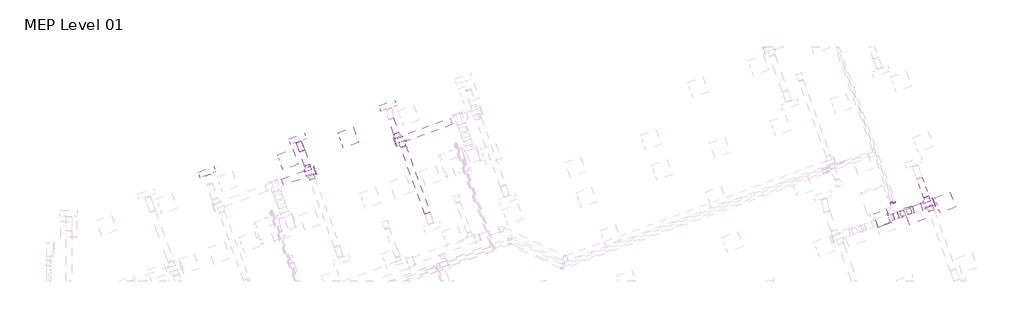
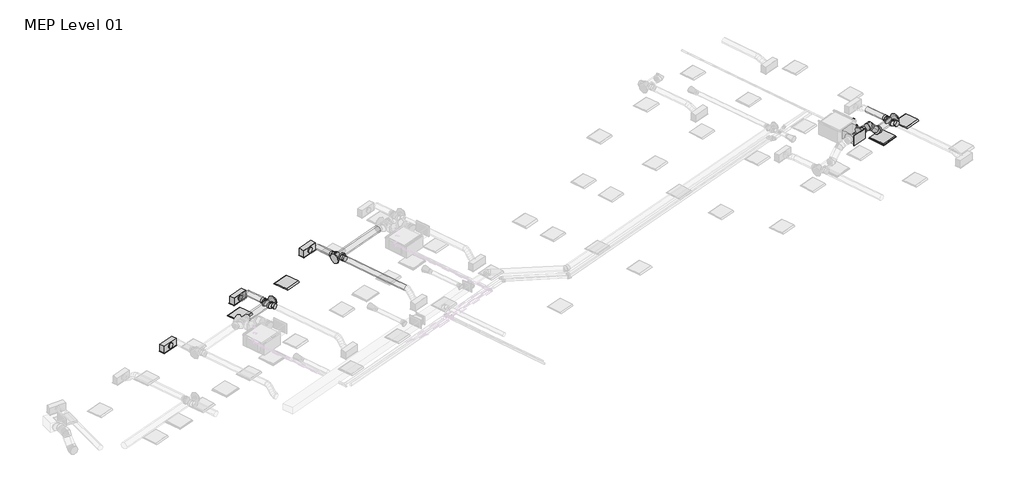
# One storey, part 26 of 29: 13 duct fittings, 11 duct segments, 4 air terminals, 4 pipe fittings, 4 pipe segments, 3 light fixtures.
"""IFC4 building model written with IfcOpenShell, lengths in millimetres."""

from ifc_helpers import new_model, si_unit, point, frame, frame_2d, origin, place, context, project, spatial, polyline, circle_curve, ellipse_curve, trimmed, segment, composite_curve, outline, extrude, transform, mapped, element, save
from ifc_brep_helpers import plane_surface, cylinder_surface, advanced_brep
from components import return_grille_rectangular_hosted_standard_7b12617c, supply_diffuser_with_plenum_linear_slot_hosted_8c379eed, dw144_rectangular_blank_end_standard_1669e3e3, dw144_round_blank_end_standard_e3d0b58b, dw144_round_segmented_bend_slip_joint_standard_636bd9c1, dw144_round_shoe_branch_slip_joint_standard_15a2edd8, dw144_round_shoe_branch_slip_joint_standard_559552f4, dw144_round_shoe_branch_slip_joint_standard_4a92c8a1, light_fixture_600x600_230_1c7c1157, elbow_threaded_gmi_standard_b4aa7741

model = new_model("IFC4")

# Units and contexts
model_context = context("Model", 3, world=origin())
ifc_project = project(units=[si_unit("LENGTHUNIT", "METRE", prefix="MILLI")], contexts=[model_context])

# Site, building, storey
site = spatial("IfcSite", under=ifc_project)
building = spatial("IfcBuilding", under=site)
storey = spatial("IfcBuildingStorey", under=building, Name="MEP Level 01", Elevation=3900.0)

# Air terminals
placement = place(None, origin())
return_grille_rectangular_hosted_standard_shape = return_grille_rectangular_hosted_standard_7b12617c(model_context)
element("IfcAirTerminal", 1, ObjectType="Return Grille - Rectangular - Hosted : Standard", at=placement, inside=storey, context=model_context, shape_type="MappedRepresentation", body=[
    mapped(return_grille_rectangular_hosted_standard_shape, transform((62341.090285, 14748.7465668, 6700.0), x_axis=(0.939692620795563, 0.3420201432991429, 0.0), y_axis=(0.3420201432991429, -0.939692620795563, 0.0), z_axis=(0.0, 0.0, -1.0))),
])
supply_diffuser_with_plenum_linear_slot_hosted_shape = supply_diffuser_with_plenum_linear_slot_hosted_8c379eed(model_context)
element("IfcAirTerminal", 2, ObjectType="Supply Diffuser with Plenum - Linear Slot - Hosted : 600mmx193.8mm-200 In Inlet  4-Slot", at=placement, inside=storey, context=model_context, shape_type="MappedRepresentation", body=[
    mapped(supply_diffuser_with_plenum_linear_slot_hosted_shape, transform((35915.3297037, 16300.7234338, 6500.0), x_axis=(-0.9396926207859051, -0.3420201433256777, 0.0), y_axis=(-0.3420201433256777, 0.9396926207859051, 0.0), z_axis=(0.0, 0.0, -1.0))),
])
element("IfcAirTerminal", 3, ObjectType="Supply Diffuser with Plenum - Linear Slot - Hosted : 600mmx193.8mm-200 In Inlet  4-Slot", at=placement, inside=storey, context=model_context, shape_type="MappedRepresentation", body=[
    mapped(supply_diffuser_with_plenum_linear_slot_hosted_shape, transform((39293.7706156, 17542.574693, 6500.0), x_axis=(-0.9396926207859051, -0.3420201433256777, 0.0), y_axis=(-0.3420201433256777, 0.9396926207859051, 0.0), z_axis=(0.0, 0.0, -1.0))),
])
element("IfcAirTerminal", 4, ObjectType="Supply Diffuser with Plenum - Linear Slot - Hosted : 600mmx193.8mm-200 In Inlet  4-Slot", at=placement, inside=storey, context=model_context, shape_type="MappedRepresentation", body=[
    mapped(supply_diffuser_with_plenum_linear_slot_hosted_shape, transform((42674.4758588, 18775.4888623, 6500.0), x_axis=(-0.9396926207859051, -0.3420201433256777, 0.0), y_axis=(-0.3420201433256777, 0.9396926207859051, 0.0), z_axis=(0.0, 0.0, -1.0))),
])

# Duct fittings
dw144_rectangular_blank_end_standard_shape = dw144_rectangular_blank_end_standard_1669e3e3(model_context)
element("IfcDuctFitting", 5, ObjectType="DW144 Rectangular Blank End : Standard", at=placement, inside=storey, context=model_context, shape_type="MappedRepresentation", body=[
    mapped(dw144_rectangular_blank_end_standard_shape, transform((61207.3958712, 14336.1155454, 7369.575), x_axis=(0.34202014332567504, -0.9396926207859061, 0.0), y_axis=(0.9396926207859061, 0.34202014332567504, 0.0), z_axis=(0.0, 0.0, 1.0))),
])
dw144_round_blank_end_standard_shape = dw144_round_blank_end_standard_e3d0b58b(model_context)
element("IfcDuctFitting", 6, ObjectType="DW144 Round Blank End : Standard", at=placement, inside=storey, context=model_context, shape_type="MappedRepresentation", body=[
    mapped(dw144_round_blank_end_standard_shape, transform((39936.3185675, 16357.4162175, 6972.2088531), x_axis=(0.9396926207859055, 0.3420201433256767, 0.0), y_axis=(-0.3420201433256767, 0.9396926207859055, 0.0), z_axis=(0.0, 0.0, 1.0))),
])
element("IfcDuctFitting", 7, ObjectType="DW144 Round Blank End : Standard", at=placement, inside=storey, context=model_context, shape_type="MappedRepresentation", body=[
    mapped(dw144_round_blank_end_standard_shape, transform((42948.5285031, 17437.6115173, 6972.2088531), x_axis=(-0.9396926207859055, -0.3420201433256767, 0.0), y_axis=(0.3420201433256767, -0.9396926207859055, 0.0), z_axis=(0.0, 0.0, 1.0))),
])
element("IfcDuctFitting", 8, ObjectType="DW144 Round Blank End : Standard", at=placement, inside=storey, context=model_context, shape_type="MappedRepresentation", body=[
    mapped(dw144_round_blank_end_standard_shape, transform((63040.2710121, 15178.5710827, 6972.2088531), x_axis=(0.9396926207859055, 0.3420201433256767, 0.0), y_axis=(-0.3420201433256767, 0.9396926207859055, 0.0), z_axis=(0.0, 0.0, 1.0))),
])
dw144_round_segmented_bend_slip_joint_standard_shape = dw144_round_segmented_bend_slip_joint_standard_636bd9c1(model_context)
element("IfcDuctFitting", 9, ObjectType="DW144 Round Segmented Bend - Slip Joint : Standard", at=placement, inside=storey, context=model_context, shape_type="MappedRepresentation", body=[
    mapped(dw144_round_segmented_bend_slip_joint_standard_shape, transform((62192.3208978, 14869.9424809, 6972.2088531), x_axis=(0.6644630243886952, 0.24184476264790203, -0.7071067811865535), y_axis=(0.6644630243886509, 0.2418447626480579, 0.7071067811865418), z_axis=(0.3420201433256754, -0.939692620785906, 0.0))),
])
element("IfcDuctFitting", 10, ObjectType="DW144 Round Segmented Bend - Slip Joint : Standard", at=placement, inside=storey, context=model_context, shape_type="MappedRepresentation", body=[
    mapped(dw144_round_segmented_bend_slip_joint_standard_shape, transform((61818.9188618, 14734.0352544, 7369.575), x_axis=(0.9396926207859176, 0.3420201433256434, 0.0), y_axis=(0.0, 0.0, -1.0), z_axis=(-0.3420201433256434, 0.9396926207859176, 0.0))),
])
dw144_round_shoe_branch_slip_joint_standard_shape = dw144_round_shoe_branch_slip_joint_standard_15a2edd8(model_context)
element("IfcDuctFitting", 11, ObjectType="DW144 Round Shoe Branch - Slip Joint : Standard", at=placement, inside=storey, context=model_context, shape_type="MappedRepresentation", body=[
    mapped(dw144_round_shoe_branch_slip_joint_standard_shape, transform((39717.3209662, 16410.7298308, 6972.2088531), x_axis=(-0.3420201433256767, 0.9396926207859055, 0.0), y_axis=(0.9396926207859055, 0.3420201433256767, 0.0), z_axis=(0.0, 0.0, -1.0))),
])
element("IfcDuctFitting", 12, ObjectType="DW144 Round Shoe Branch - Slip Joint : Standard", at=placement, inside=storey, context=model_context, shape_type="MappedRepresentation", body=[
    mapped(dw144_round_shoe_branch_slip_joint_standard_shape, transform((39802.826002, 16175.8066756, 6972.2088531), x_axis=(0.3420201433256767, -0.9396926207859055, 0.0), y_axis=(0.9396926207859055, 0.3420201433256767, 0.0), z_axis=(0.0, 0.0, 1.0))),
])
element("IfcDuctFitting", 13, ObjectType="DW144 Round Shoe Branch - Slip Joint : Standard", at=placement, inside=storey, context=model_context, shape_type="MappedRepresentation", body=[
    mapped(dw144_round_shoe_branch_slip_joint_standard_shape, transform((62821.2734108, 15231.884696, 6972.2088531), x_axis=(-0.3420201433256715, 0.9396926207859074, 0.0), y_axis=(0.9396926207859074, 0.3420201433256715, 0.0), z_axis=(0.0, 0.0, -1.0))),
])
element("IfcDuctFitting", 14, ObjectType="DW144 Round Shoe Branch - Slip Joint : Standard", at=placement, inside=storey, context=model_context, shape_type="MappedRepresentation", body=[
    mapped(dw144_round_shoe_branch_slip_joint_standard_shape, transform((62906.7784467, 14996.9615408, 6972.2088531), x_axis=(0.3420201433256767, -0.9396926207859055, 0.0), y_axis=(0.9396926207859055, 0.3420201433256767, 0.0), z_axis=(0.0, 0.0, 1.0))),
])
dw144_round_shoe_branch_slip_joint_standard_2_shape = dw144_round_shoe_branch_slip_joint_standard_559552f4(model_context)
element("IfcDuctFitting", 15, ObjectType="DW144 Round Shoe Branch - Slip Joint : Standard", at=placement, inside=storey, context=model_context, shape_type="MappedRepresentation", body=[
    mapped(dw144_round_shoe_branch_slip_joint_standard_2_shape, transform((43036.855796, 17602.7822443, 6972.2088531), x_axis=(-0.3420201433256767, 0.9396926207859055, 0.0), y_axis=(0.9396926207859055, 0.3420201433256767, 0.0), z_axis=(0.0, 0.0, -1.0))),
])
element("IfcDuctFitting", 16, ObjectType="DW144 Round Shoe Branch - Slip Joint : Standard", at=placement, inside=storey, context=model_context, shape_type="MappedRepresentation", body=[
    mapped(dw144_round_shoe_branch_slip_joint_standard_2_shape, transform((43190.912986, 17392.8100327, 6972.2088531), x_axis=(0.3420201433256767, -0.9396926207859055, 0.0), y_axis=(0.9396926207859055, 0.3420201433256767, 0.0), z_axis=(0.0, 0.0, 1.0))),
])
dw144_round_shoe_branch_slip_joint_standard_3_shape = dw144_round_shoe_branch_slip_joint_standard_4a92c8a1(model_context)
element("IfcDuctFitting", 17, ObjectType="DW144 Round Shoe Branch - Slip Joint : Standard", at=placement, inside=storey, context=model_context, shape_type="MappedRepresentation", body=[
    mapped(dw144_round_shoe_branch_slip_joint_standard_3_shape, transform((61385.964698, 14576.452826, 7369.575), x_axis=(0.9396926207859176, 0.3420201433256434, 0.0), y_axis=(0.3420201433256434, -0.9396926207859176, 0.0), z_axis=(0.0, 0.0, -1.0))),
])

# Duct segments
element("IfcDuctSegment", 18, ObjectType="DW144 Flanged Med Radius Bend / Shoe Branch", at=placement, inside=storey, context=model_context, shape_type="SweptSolid", body=[
    extrude(outline(polyline([(60794.7590495, 14738.8747953), (61264.6053599, 14909.884867), (61442.3190264, 14421.6205812), (60972.472716, 14250.6105095), (60794.7590495, 14738.8747953)])), frame((0.0, 0.0, 7194.575), z_axis=(0.0, 0.0, 1.0), x_axis=(1.0, 0.0, 0.0)), (0.0, 0.0, 1.0), 350.0),
])
element("IfcDuctSegment", 19, ObjectType="DW144 Segmented Bend / Shoe Branch", at=placement, inside=storey, context=model_context, shape_type="SweptSolid", body=[
    extrude(outline(composite_curve([segment(trimmed(circle_curve(frame_2d((0.0, 125.0)), 125.0), [point((125.0, 125.0))], [point((0.0, 0.0))], False, "CARTESIAN"), True, "CONTINUOUS"), segment(trimmed(circle_curve(frame_2d((0.0, 125.0)), 125.0), [point((0.0, 0.0))], [point((-125.0, 125.0))], False, "CARTESIAN"), True, "CONTINUOUS"), segment(trimmed(circle_curve(frame_2d((0.0, 125.0)), 125.0), [point((-125.0, 125.0))], [point((0.0, 250.0))], False, "CARTESIAN"), True, "CONTINUOUS"), segment(trimmed(circle_curve(frame_2d((0.0, 125.0)), 125.0), [point((0.0, 250.0))], [point((125.0, 125.0))], False, "CARTESIAN"), True, "CONTINUOUS")], self_intersect=False)), frame((38741.1276812, 15922.4023106, 7097.2088531), z_axis=(0.9396926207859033, 0.3420201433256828, 0.0), x_axis=(0.3420201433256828, -0.9396926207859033, 0.0)), (0.0, 0.0, 1.0), 1271.8955751),
])
element("IfcDuctSegment", 20, ObjectType="DW144 Segmented Bend / Shoe Branch", at=placement, inside=storey, context=model_context, shape_type="SweptSolid", body=[
    extrude(outline(composite_curve([segment(trimmed(circle_curve(frame_2d((0.0, 100.0)), 100.0), [point((100.0, 100.0))], [point((0.0, 0.0))], False, "CARTESIAN"), True, "CONTINUOUS"), segment(trimmed(circle_curve(frame_2d((0.0, 100.0)), 100.0), [point((0.0, 0.0))], [point((-100.0, 100.0))], False, "CARTESIAN"), True, "CONTINUOUS"), segment(trimmed(circle_curve(frame_2d((0.0, 100.0)), 100.0), [point((-100.0, 100.0))], [point((0.0, 200.0))], False, "CARTESIAN"), True, "CONTINUOUS"), segment(trimmed(circle_curve(frame_2d((0.0, 100.0)), 100.0), [point((0.0, 200.0))], [point((100.0, 100.0))], False, "CARTESIAN"), True, "CONTINUOUS")], self_intersect=False)), frame((39666.0179447, 16551.683724, 7072.2088531), z_axis=(-0.3420201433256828, 0.9396926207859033, 0.0), x_axis=(0.9396926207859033, 0.3420201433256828, 0.0)), (0.0, 0.0, 1.0), 574.8150783),
])
element("IfcDuctSegment", 21, ObjectType="DW144 Segmented Bend / Shoe Branch", at=placement, inside=storey, context=model_context, shape_type="SweptSolid", body=[
    extrude(outline(composite_curve([segment(trimmed(circle_curve(frame_2d((0.0, -125.0)), 125.0), [point((-125.0, -125.0))], [point((0.0, 0.0))], False, "CARTESIAN"), True, "CONTINUOUS"), segment(trimmed(circle_curve(frame_2d((0.0, -125.0)), 125.0), [point((0.0, 0.0))], [point((125.0, -125.0))], False, "CARTESIAN"), True, "CONTINUOUS"), segment(trimmed(circle_curve(frame_2d((0.0, -125.0)), 125.0), [point((125.0, -125.0))], [point((0.0, -250.0))], False, "CARTESIAN"), True, "CONTINUOUS"), segment(trimmed(circle_curve(frame_2d((0.0, -125.0)), 125.0), [point((0.0, -250.0))], [point((-125.0, -125.0))], False, "CARTESIAN"), True, "CONTINUOUS")], self_intersect=False)), frame((42948.5285031, 17437.6115173, 6847.2088531), z_axis=(0.9396926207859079, 0.3420201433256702, 0.0), x_axis=(0.3420201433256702, -0.9396926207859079, 0.0)), (0.0, 0.0, 1.0), 2211.3668834),
])
element("IfcDuctSegment", 22, ObjectType="DW144 Segmented Bend / Shoe Branch", at=placement, inside=storey, context=model_context, shape_type="SweptSolid", body=[
    extrude(outline(composite_curve([segment(trimmed(circle_curve(frame_2d((0.0, -100.0)), 100.0), [point((-100.0, -100.0))], [point((0.0, 0.0))], False, "CARTESIAN"), True, "CONTINUOUS"), segment(trimmed(circle_curve(frame_2d((0.0, -100.0)), 100.0), [point((0.0, 0.0))], [point((100.0, -100.0))], False, "CARTESIAN"), True, "CONTINUOUS"), segment(trimmed(circle_curve(frame_2d((0.0, -100.0)), 100.0), [point((100.0, -100.0))], [point((0.0, -200.0))], False, "CARTESIAN"), True, "CONTINUOUS"), segment(trimmed(circle_curve(frame_2d((0.0, -100.0)), 100.0), [point((0.0, -200.0))], [point((-100.0, -100.0))], False, "CARTESIAN"), True, "CONTINUOUS")], self_intersect=False)), frame((42985.5527745, 17743.7361374, 6872.2088531), z_axis=(-0.34202014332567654, 0.9396926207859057, 0.0), x_axis=(0.9396926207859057, 0.34202014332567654, 0.0)), (0.0, 0.0, 1.0), 590.0),
])
element("IfcDuctSegment", 23, ObjectType="DW144 Segmented Bend / Shoe Branch", at=placement, inside=storey, context=model_context, shape_type="SweptSolid", body=[
    extrude(outline(composite_curve([segment(trimmed(circle_curve(frame_2d((0.0, 100.0)), 100.0), [point((100.0, 100.0))], [point((0.0, 0.0))], False, "CARTESIAN"), True, "CONTINUOUS"), segment(trimmed(circle_curve(frame_2d((0.0, 100.0)), 100.0), [point((0.0, 0.0))], [point((-100.0, 100.0))], False, "CARTESIAN"), True, "CONTINUOUS"), segment(trimmed(circle_curve(frame_2d((0.0, 100.0)), 100.0), [point((-100.0, 100.0))], [point((0.0, 200.0))], False, "CARTESIAN"), True, "CONTINUOUS"), segment(trimmed(circle_curve(frame_2d((0.0, 100.0)), 100.0), [point((0.0, 200.0))], [point((100.0, 100.0))], False, "CARTESIAN"), True, "CONTINUOUS")], self_intersect=False)), frame((44148.5693873, 14761.6706945, 7072.2088531), z_axis=(-0.34202014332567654, 0.9396926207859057, 0.0), x_axis=(0.9396926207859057, 0.34202014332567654, 0.0)), (0.0, 0.0, 1.0), 2650.0),
])
element("IfcDuctSegment", 24, ObjectType="DW144 Segmented Bend / Shoe Branch", at=placement, inside=storey, context=model_context, shape_type="SweptSolid", body=[
    extrude(outline(composite_curve([segment(trimmed(circle_curve(frame_2d((0.0, -125.0)), 125.0), [point((-125.0, -125.0))], [point((0.0, 0.0))], False, "CARTESIAN"), True, "CONTINUOUS"), segment(trimmed(circle_curve(frame_2d((0.0, -125.0)), 125.0), [point((0.0, 0.0))], [point((125.0, -125.0))], False, "CARTESIAN"), True, "CONTINUOUS"), segment(trimmed(circle_curve(frame_2d((0.0, -125.0)), 125.0), [point((125.0, -125.0))], [point((0.0, -250.0))], False, "CARTESIAN"), True, "CONTINUOUS"), segment(trimmed(circle_curve(frame_2d((0.0, -125.0)), 125.0), [point((0.0, -250.0))], [point((-125.0, -125.0))], False, "CARTESIAN"), True, "CONTINUOUS")], self_intersect=False)), frame((62289.6292548, 14905.3598264, 6847.2088531), z_axis=(0.9396926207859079, 0.3420201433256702, 0.0), x_axis=(0.3420201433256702, -0.9396926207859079, 0.0)), (0.0, 0.0, 1.0), 798.8162732),
])
element("IfcDuctSegment", 25, ObjectType="DW144 Segmented Bend / Shoe Branch", at=placement, inside=storey, context=model_context, shape_type="SweptSolid", body=[
    extrude(outline(composite_curve([segment(trimmed(circle_curve(frame_2d((0.0, 100.0)), 100.0), [point((100.0, 100.0))], [point((0.0, 0.0))], False, "CARTESIAN"), True, "CONTINUOUS"), segment(trimmed(circle_curve(frame_2d((0.0, 100.0)), 100.0), [point((0.0, 0.0))], [point((-100.0, 100.0))], False, "CARTESIAN"), True, "CONTINUOUS"), segment(trimmed(circle_curve(frame_2d((0.0, 100.0)), 100.0), [point((-100.0, 100.0))], [point((0.0, 200.0))], False, "CARTESIAN"), True, "CONTINUOUS"), segment(trimmed(circle_curve(frame_2d((0.0, 100.0)), 100.0), [point((0.0, 200.0))], [point((100.0, 100.0))], False, "CARTESIAN"), True, "CONTINUOUS")], self_intersect=False)), frame((62769.9703893, 15372.8385891, 7072.2088531), z_axis=(-0.3420201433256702, 0.9396926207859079, 0.0), x_axis=(0.9396926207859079, 0.3420201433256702, 0.0)), (0.0, 0.0, 1.0), 750.0),
])
element("IfcDuctSegment", 26, ObjectType="DW144 Segmented Bend / Shoe Branch", at=placement, inside=storey, context=model_context, shape_type="SweptSolid", body=[
    extrude(outline(composite_curve([segment(trimmed(circle_curve(frame_2d((0.0, 125.0)), 125.0), [point((125.0, 125.0))], [point((0.0, 0.0))], False, "CARTESIAN"), True, "CONTINUOUS"), segment(trimmed(circle_curve(frame_2d((0.0, 125.0)), 125.0), [point((0.0, 0.0))], [point((-125.0, 125.0))], False, "CARTESIAN"), True, "CONTINUOUS"), segment(trimmed(circle_curve(frame_2d((0.0, 125.0)), 125.0), [point((-125.0, 125.0))], [point((0.0, 250.0))], False, "CARTESIAN"), True, "CONTINUOUS"), segment(trimmed(circle_curve(frame_2d((0.0, 125.0)), 125.0), [point((0.0, 250.0))], [point((125.0, 125.0))], False, "CARTESIAN"), True, "CONTINUOUS")], self_intersect=False)), frame((61550.4109066, 14636.3063511, 7494.575), z_axis=(0.9396926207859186, 0.3420201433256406, 0.0), x_axis=(0.3420201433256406, -0.9396926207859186, 0.0)), (0.0, 0.0, 1.0), 182.1868071),
])
element("IfcDuctSegment", 27, ObjectType="DW144 Segmented Bend / Shoe Branch", at=placement, inside=storey, context=model_context, shape_type="SweptSolid", body=[
    extrude(outline(composite_curve([segment(trimmed(circle_curve(frame_2d((0.0, -125.0)), 125.0), [point((57.2076922, -236.1408113))], [point((-111.1408113, -182.2076923))], False, "CARTESIAN"), True, "CONTINUOUS"), segment(trimmed(circle_curve(frame_2d((0.0, -125.0)), 125.0), [point((-111.1408113, -182.2076923))], [point((-57.2076923, -13.8591886))], False, "CARTESIAN"), True, "CONTINUOUS"), segment(trimmed(circle_curve(frame_2d((0.0, -125.0)), 125.0), [point((-57.2076923, -13.8591886))], [point((111.1408113, -67.7923077))], False, "CARTESIAN"), True, "CONTINUOUS"), segment(trimmed(circle_curve(frame_2d((0.0, -125.0)), 125.0), [point((111.1408113, -67.7923077))], [point((57.2076922, -236.1408113))], False, "CARTESIAN"), True, "CONTINUOUS")], self_intersect=False)), frame((62123.5134987, 14963.1722168, 7085.884105), z_axis=(-0.6644630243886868, -0.2418447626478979, 0.7071067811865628), x_axis=(0.7473211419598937, -0.21503058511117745, 0.6287073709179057)), (0.0, 0.0, 1.0), 354.8538129),
])
element("IfcDuctSegment", 28, ObjectType="Flex - Round", at=placement, inside=storey, context=model_context, shape_type="AdvancedBrep", body=[
    advanced_brep(
    [(39375.4503472, 17057.631197, 6972.2088531), (39469.4196093, 17091.8332113, 6872.2088531), (39563.3888713, 17126.0352256, 6972.2088531), (39469.4196093, 17091.8332113, 7072.2088531), (39366.3000724, 17082.7713704, 6972.2088531), (39468.3712519, 17094.7135495, 6872.2088531), (39553.6634713, 17152.7555425, 6972.2088531), (39451.5922918, 17140.8133634, 7072.2088531), (39243.88775, 17387.2462998, 6654.4), (39337.8570121, 17421.4483142, 6754.4), (39431.8262742, 17455.6503285, 6654.4), (39337.8570121, 17421.4483142, 6554.4), (39354.6030432, 17113.2033068, 6955.1920761), (39468.0578227, 17095.5289923, 6871.7528779), (39541.1583625, 17185.2898444, 6954.016486), (39427.703583, 17202.9641589, 7037.4556843), (39336.031748, 17159.7315718, 6910.3303741), (39455.7796156, 17126.2906417, 6842.0930583), (39522.1403442, 17232.9373231, 6908.0756586), (39402.3924766, 17266.3782532, 6976.3129745), (39318.9928732, 17200.3636656, 6848.646534), (39441.8182951, 17159.583784, 6791.5505271), (39504.8830052, 17274.090382, 6845.6009381), (39382.0575833, 17314.8702636, 6902.6969449), (39302.3936162, 17239.1911435, 6781.0079151), (39425.2190381, 17198.4112619, 6723.9119082), (39488.2837482, 17312.9178598, 6777.9623192), (39365.4583263, 17353.6977415, 6835.0583261), (39285.1362771, 17280.3442024, 6718.5331946), (39404.8841447, 17246.9032723, 6650.2958787), (39471.2448734, 17353.5499537, 6716.278479), (39351.4970058, 17386.9908838, 6784.5157949), (39266.1182589, 17327.9916811, 6672.5923671), (39379.5730383, 17310.3173666, 6589.1531689), (39452.6735782, 17400.0782186, 6671.416777), (39339.2187987, 17417.7525332, 6754.8559752), (39253.61315, 17360.525983, 6654.4), (39355.6843296, 17372.4681621, 6554.4), (39440.976549, 17430.5101551, 6654.4), (39338.9053695, 17418.567976, 6754.4)],
    [
        (0, 1, circle_curve(frame((39469.4196093, 17091.8332113, 6972.2088531), z_axis=(0.3420201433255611, -0.9396926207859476, 0.0), x_axis=(-0.9396926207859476, -0.3420201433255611, 0.0)), 100.0)),
        (1, 2, circle_curve(frame((39469.4196093, 17091.8332113, 6972.2088531), z_axis=(0.3420201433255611, -0.9396926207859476, 0.0), x_axis=(-0.9396926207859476, -0.3420201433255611, 0.0)), 100.0)),
        (2, 3, circle_curve(frame((39469.4196093, 17091.8332113, 6972.2088531), z_axis=(0.3420201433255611, -0.9396926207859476, 0.0), x_axis=(-0.9396926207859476, -0.3420201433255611, 0.0)), 100.0)),
        (3, 0, circle_curve(frame((39469.4196093, 17091.8332113, 6972.2088531), z_axis=(0.3420201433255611, -0.9396926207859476, 0.0), x_axis=(-0.9396926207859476, -0.3420201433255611, 0.0)), 100.0)),
        (0, 4),
        (4, 5, ellipse_curve(frame((39459.9817718, 17117.7634565, 6972.2088531), z_axis=(0.33983489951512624, -0.9098146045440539, 0.2382218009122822), x_axis=(0.050261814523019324, -0.23536541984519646, -0.9706064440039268)), 102.9679003, 100.0)),
        (5, 1),
        (5, 6, ellipse_curve(frame((39459.9817718, 17117.7634565, 6972.2088531), z_axis=(0.33983489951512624, -0.9098146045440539, 0.2382218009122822), x_axis=(0.050261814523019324, -0.23536541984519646, -0.9706064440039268)), 102.9679003, 100.0)),
        (6, 2),
        (6, 7, ellipse_curve(frame((39459.9817718, 17117.7634565, 6972.2088531), z_axis=(0.33983489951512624, -0.9098146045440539, 0.2382218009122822), x_axis=(0.050261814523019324, -0.23536541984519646, -0.9706064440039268)), 102.9679003, 100.0)),
        (7, 3),
        (7, 4, ellipse_curve(frame((39459.9817718, 17117.7634565, 6972.2088531), z_axis=(0.33983489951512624, -0.9098146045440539, 0.2382218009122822), x_axis=(0.050261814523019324, -0.23536541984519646, -0.9706064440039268)), 102.9679003, 100.0)),
        (8, 9, circle_curve(frame((39337.8570121, 17421.4483142, 6654.4), z_axis=(-0.34202014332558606, 0.9396926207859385, 0.0), x_axis=(-0.9396926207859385, -0.34202014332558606, 0.0)), 100.0)),
        (9, 10, circle_curve(frame((39337.8570121, 17421.4483142, 6654.4), z_axis=(-0.34202014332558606, 0.9396926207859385, 0.0), x_axis=(-0.9396926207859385, -0.34202014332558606, 0.0)), 100.0)),
        (10, 11, circle_curve(frame((39337.8570121, 17421.4483142, 6654.4), z_axis=(-0.34202014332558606, 0.9396926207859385, 0.0), x_axis=(-0.9396926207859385, -0.34202014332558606, 0.0)), 100.0)),
        (11, 8, circle_curve(frame((39337.8570121, 17421.4483142, 6654.4), z_axis=(-0.34202014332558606, 0.9396926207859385, 0.0), x_axis=(-0.9396926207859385, -0.34202014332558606, 0.0)), 100.0)),
        (4, 12),
        (12, 13, ellipse_curve(frame((39447.8807028, 17149.2465756, 6954.6042811), z_axis=(0.2994361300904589, -0.7656367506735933, 0.5693315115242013), x_axis=(0.16838055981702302, -0.544940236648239, -0.8213940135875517)), 100.7831059, 100.0)),
        (13, 5),
        (13, 14, ellipse_curve(frame((39447.8807028, 17149.2465756, 6954.6042811), z_axis=(0.2994361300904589, -0.7656367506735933, 0.5693315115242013), x_axis=(0.16838055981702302, -0.544940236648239, -0.8213940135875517)), 100.7831059, 100.0)),
        (14, 6),
        (14, 15, ellipse_curve(frame((39447.8807028, 17149.2465756, 6954.6042811), z_axis=(0.2994361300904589, -0.7656367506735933, 0.5693315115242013), x_axis=(0.16838055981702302, -0.544940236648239, -0.8213940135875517)), 100.7831059, 100.0)),
        (15, 7),
        (15, 12, ellipse_curve(frame((39447.8807028, 17149.2465756, 6954.6042811), z_axis=(0.2994361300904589, -0.7656367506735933, 0.5693315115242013), x_axis=(0.16838055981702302, -0.544940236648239, -0.8213940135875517)), 100.7831059, 100.0)),
        (12, 16),
        (16, 17, ellipse_curve(frame((39429.0860461, 17196.3344474, 6909.2030164), z_axis=(0.25199849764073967, -0.6177035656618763, 0.7449423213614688), x_axis=(0.2334754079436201, -0.7082385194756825, -0.6662487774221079)), 100.6109919, 100.0)),
        (17, 13),
        (17, 18, ellipse_curve(frame((39429.0860461, 17196.3344474, 6909.2030164), z_axis=(0.25199849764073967, -0.6177035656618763, 0.7449423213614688), x_axis=(0.2334754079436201, -0.7082385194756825, -0.6662487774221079)), 100.6109919, 100.0)),
        (18, 14),
        (18, 19, ellipse_curve(frame((39429.0860461, 17196.3344474, 6909.2030164), z_axis=(0.25199849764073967, -0.6177035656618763, 0.7449423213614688), x_axis=(0.2334754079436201, -0.7082385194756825, -0.6662487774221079)), 100.6109919, 100.0)),
        (19, 15),
        (19, 16, ellipse_curve(frame((39429.0860461, 17196.3344474, 6909.2030164), z_axis=(0.25199849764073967, -0.6177035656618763, 0.7449423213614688), x_axis=(0.2334754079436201, -0.7082385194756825, -0.6662487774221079)), 100.6109919, 100.0)),
        (16, 20),
        (20, 21, ellipse_curve(frame((39411.9379392, 17237.2270238, 6847.123736), z_axis=(0.21657997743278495, -0.5117272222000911, 0.8314014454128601), x_axis=(0.2666591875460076, -0.7882225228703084, -0.5546153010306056)), 100.0484947, 100.0)),
        (21, 17),
        (21, 22, ellipse_curve(frame((39411.9379392, 17237.2270238, 6847.123736), z_axis=(0.21657997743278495, -0.5117272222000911, 0.8314014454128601), x_axis=(0.2666591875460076, -0.7882225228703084, -0.5546153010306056)), 100.0484947, 100.0)),
        (22, 18),
        (22, 23, ellipse_curve(frame((39411.9379392, 17237.2270238, 6847.123736), z_axis=(0.21657997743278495, -0.5117272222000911, 0.8314014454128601), x_axis=(0.2666591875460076, -0.7882225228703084, -0.5546153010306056)), 100.0484947, 100.0)),
        (23, 19),
        (23, 20, ellipse_curve(frame((39411.9379392, 17237.2270238, 6847.123736), z_axis=(0.21657997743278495, -0.5117272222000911, 0.8314014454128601), x_axis=(0.2666591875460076, -0.7882225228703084, -0.5546153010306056)), 100.0484947, 100.0)),
        (20, 24),
        (24, 25, ellipse_curve(frame((39395.3386822, 17276.0545017, 6779.4851171), z_axis=(0.2165799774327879, -0.5117272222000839, 0.8314014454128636), x_axis=(-0.26665918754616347, 0.7882225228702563, 0.5546153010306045)), 100.0484947, 100.0)),
        (25, 21),
        (25, 26, ellipse_curve(frame((39395.3386822, 17276.0545017, 6779.4851171), z_axis=(0.2165799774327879, -0.5117272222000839, 0.8314014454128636), x_axis=(-0.26665918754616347, 0.7882225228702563, 0.5546153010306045)), 100.0484947, 100.0)),
        (26, 22),
        (26, 27, ellipse_curve(frame((39395.3386822, 17276.0545017, 6779.4851171), z_axis=(0.2165799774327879, -0.5117272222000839, 0.8314014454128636), x_axis=(-0.26665918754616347, 0.7882225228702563, 0.5546153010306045)), 100.0484947, 100.0)),
        (27, 23),
        (27, 24, ellipse_curve(frame((39395.3386822, 17276.0545017, 6779.4851171), z_axis=(0.2165799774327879, -0.5117272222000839, 0.8314014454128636), x_axis=(-0.26665918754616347, 0.7882225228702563, 0.5546153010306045)), 100.0484947, 100.0)),
        (24, 28),
        (28, 29, ellipse_curve(frame((39378.1905753, 17316.947078, 6717.4058368), z_axis=(0.25199849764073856, -0.617703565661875, 0.7449423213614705), x_axis=(-0.23347540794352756, 0.7082385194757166, 0.6662487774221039)), 100.6109919, 100.0)),
        (29, 25),
        (29, 30, ellipse_curve(frame((39378.1905753, 17316.947078, 6717.4058368), z_axis=(0.25199849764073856, -0.617703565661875, 0.7449423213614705), x_axis=(-0.23347540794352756, 0.7082385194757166, 0.6662487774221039)), 100.6109919, 100.0)),
        (30, 26),
        (30, 31, ellipse_curve(frame((39378.1905753, 17316.947078, 6717.4058368), z_axis=(0.25199849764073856, -0.617703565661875, 0.7449423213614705), x_axis=(-0.23347540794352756, 0.7082385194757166, 0.6662487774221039)), 100.6109919, 100.0)),
        (31, 27),
        (31, 28, ellipse_curve(frame((39378.1905753, 17316.947078, 6717.4058368), z_axis=(0.25199849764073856, -0.617703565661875, 0.7449423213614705), x_axis=(-0.23347540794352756, 0.7082385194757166, 0.6662487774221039)), 100.6109919, 100.0)),
        (28, 32),
        (32, 33, ellipse_curve(frame((39359.3959185, 17364.0349499, 6672.004572), z_axis=(0.2994361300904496, -0.7656367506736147, 0.5693315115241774), x_axis=(-0.16838055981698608, 0.5449402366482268, 0.8213940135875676)), 100.7831059, 100.0)),
        (33, 29),
        (33, 34, ellipse_curve(frame((39359.3959185, 17364.0349499, 6672.004572), z_axis=(0.2994361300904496, -0.7656367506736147, 0.5693315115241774), x_axis=(-0.16838055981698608, 0.5449402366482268, 0.8213940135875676)), 100.7831059, 100.0)),
        (34, 30),
        (34, 35, ellipse_curve(frame((39359.3959185, 17364.0349499, 6672.004572), z_axis=(0.2994361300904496, -0.7656367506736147, 0.5693315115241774), x_axis=(-0.16838055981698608, 0.5449402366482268, 0.8213940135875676)), 100.7831059, 100.0)),
        (35, 31),
        (35, 32, ellipse_curve(frame((39359.3959185, 17364.0349499, 6672.004572), z_axis=(0.2994361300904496, -0.7656367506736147, 0.5693315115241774), x_axis=(-0.16838055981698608, 0.5449402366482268, 0.8213940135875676)), 100.7831059, 100.0)),
        (32, 36),
        (36, 37, ellipse_curve(frame((39347.2948495, 17395.518069, 6654.4), z_axis=(0.3398348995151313, -0.9098146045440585, 0.23822180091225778), x_axis=(-0.050261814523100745, 0.23536541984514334, 0.9706064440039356)), 102.9679003, 100.0)),
        (37, 33),
        (37, 38, ellipse_curve(frame((39347.2948495, 17395.518069, 6654.4), z_axis=(0.3398348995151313, -0.9098146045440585, 0.23822180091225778), x_axis=(-0.050261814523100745, 0.23536541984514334, 0.9706064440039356)), 102.9679003, 100.0)),
        (38, 34),
        (38, 39, ellipse_curve(frame((39347.2948495, 17395.518069, 6654.4), z_axis=(0.3398348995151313, -0.9098146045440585, 0.23822180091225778), x_axis=(-0.050261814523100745, 0.23536541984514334, 0.9706064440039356)), 102.9679003, 100.0)),
        (39, 35),
        (39, 36, ellipse_curve(frame((39347.2948495, 17395.518069, 6654.4), z_axis=(0.3398348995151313, -0.9098146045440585, 0.23822180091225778), x_axis=(-0.050261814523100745, 0.23536541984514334, 0.9706064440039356)), 102.9679003, 100.0)),
        (36, 8),
        (11, 37),
        (10, 38),
        (9, 39),
    ],
    [
        plane_surface(frame((39469.4196093, 17091.8332113, 7072.2088531), z_axis=(0.342020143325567, -0.9396926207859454, 0.0), x_axis=(0.9396926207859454, 0.342020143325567, 0.0))),
        cylinder_surface(frame((39469.4196093, 17091.8332113, 6972.2088531), z_axis=(0.3420201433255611, -0.9396926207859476, 0.0), x_axis=(-0.9396926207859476, -0.3420201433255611, 0.0)), 100.0),
        plane_surface(frame((39337.8570121, 17421.4483142, 6754.4), z_axis=(-0.34202014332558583, 0.9396926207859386, 0.0), x_axis=(0.9396926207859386, 0.34202014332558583, 0.0))),
        cylinder_surface(frame((39459.9817718, 17117.7634565, 6972.2088531), z_axis=(0.3180591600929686, -0.8274884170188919, 0.4627108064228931), x_axis=(-0.9341428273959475, -0.3568781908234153, 0.0038903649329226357)), 100.0),
        cylinder_surface(frame((39447.8807028, 17149.2465756, 6954.6042811), z_axis=(0.27615973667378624, -0.6918867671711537, 0.6671045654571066), x_axis=(-0.9315903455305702, -0.3634047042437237, 0.008743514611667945)), 100.0),
        cylinder_surface(frame((39429.0860461, 17196.3344474, 6909.2030164), z_axis=(0.22477657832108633, -0.5360179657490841, 0.8137322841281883), x_axis=(-0.9296904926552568, -0.36806166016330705, 0.014359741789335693)), 100.0),
        cylinder_surface(frame((39411.9379392, 17237.2270238, 6847.123736), z_axis=(0.20817341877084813, -0.48694039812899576, 0.8482646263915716), x_axis=(-0.9292285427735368, -0.36915313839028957, 0.016133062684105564)), 100.0),
        cylinder_surface(frame((39395.3386822, 17276.0545017, 6779.4851171), z_axis=(0.22477657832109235, -0.5360179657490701, 0.8137322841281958), x_axis=(-0.9296904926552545, -0.3680616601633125, 0.014359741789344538)), 100.0),
        cylinder_surface(frame((39378.1905753, 17316.947078, 6717.4058368), z_axis=(0.27615973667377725, -0.6918867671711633, 0.6671045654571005), x_axis=(-0.9315903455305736, -0.3634047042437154, 0.008743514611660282)), 100.0),
        cylinder_surface(frame((39359.3959185, 17364.0349499, 6672.004572), z_axis=(0.3180591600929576, -0.8274884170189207, 0.4627108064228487), x_axis=(-0.9341428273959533, -0.35687819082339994, 0.0038903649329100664)), 100.0),
        cylinder_surface(frame((39347.2948495, 17395.518069, 6654.4), z_axis=(0.34202014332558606, -0.9396926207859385, 0.0), x_axis=(-0.9396926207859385, -0.34202014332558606, 0.0)), 100.0),
    ],
    [
        (0, [[1, 2, 3, 4]]),
        (1, [[-1, 5, 6, 7]]),
        (1, [[-2, -7, 8, 9]]),
        (1, [[-3, -9, 10, 11]]),
        (1, [[-4, -11, 12, -5]]),
        (2, [[13, 14, 15, 16]]),
        (3, [[-6, 17, 18, 19]]),
        (3, [[-8, -19, 20, 21]]),
        (3, [[-10, -21, 22, 23]]),
        (3, [[-12, -23, 24, -17]]),
        (4, [[-18, 25, 26, 27]]),
        (4, [[-20, -27, 28, 29]]),
        (4, [[-22, -29, 30, 31]]),
        (4, [[-24, -31, 32, -25]]),
        (5, [[-26, 33, 34, 35]]),
        (5, [[-28, -35, 36, 37]]),
        (5, [[-30, -37, 38, 39]]),
        (5, [[-32, -39, 40, -33]]),
        (6, [[-34, 41, 42, 43]]),
        (6, [[-36, -43, 44, 45]]),
        (6, [[-38, -45, 46, 47]]),
        (6, [[-40, -47, 48, -41]]),
        (7, [[-42, 49, 50, 51]]),
        (7, [[-44, -51, 52, 53]]),
        (7, [[-46, -53, 54, 55]]),
        (7, [[-48, -55, 56, -49]]),
        (8, [[-50, 57, 58, 59]]),
        (8, [[-52, -59, 60, 61]]),
        (8, [[-54, -61, 62, 63]]),
        (8, [[-56, -63, 64, -57]]),
        (9, [[-58, 65, 66, 67]]),
        (9, [[-60, -67, 68, 69]]),
        (9, [[-62, -69, 70, 71]]),
        (9, [[-64, -71, 72, -65]]),
        (10, [[-66, 73, -16, 74]]),
        (10, [[-68, -74, -15, 75]]),
        (10, [[-70, -75, -14, 76]]),
        (10, [[-72, -76, -13, -73]]),
    ],
),
])

# Light fixtures
light_fixture_600x600_230_shape = light_fixture_600x600_230_1c7c1157(model_context)
element("IfcLightFixture", 29, ObjectType="ELEKTRA Recessed Lighting Fixture : 600x600 - 230", at=placement, inside=storey, context=model_context, shape_type="MappedRepresentation", body=[
    mapped(light_fixture_600x600_230_shape, transform((41012.1934102, 17204.5951215, 6500.0), x_axis=(0.9396926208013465, 0.34202014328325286, 0.0), y_axis=(0.34202014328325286, -0.9396926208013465, 0.0), z_axis=(0.0, 0.0, -1.0))),
])
element("IfcLightFixture", 30, ObjectType="ELEKTRA Recessed Lighting Fixture : 600x600 - 230", at=placement, inside=storey, context=model_context, shape_type="MappedRepresentation", body=[
    mapped(light_fixture_600x600_230_shape, transform((38756.9311203, 16383.7467776, 6500.0), x_axis=(0.9396926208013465, 0.34202014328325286, 0.0), y_axis=(0.34202014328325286, -0.9396926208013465, 0.0), z_axis=(0.0, 0.0, -1.0))),
])
element("IfcLightFixture", 31, ObjectType="ELEKTRA Recessed Lighting Fixture : 600x600 - 230", at=placement, inside=storey, context=model_context, shape_type="MappedRepresentation", body=[
    mapped(light_fixture_600x600_230_shape, transform((63292.9915749, 14778.7825014, 6700.0), x_axis=(0.9396926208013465, 0.342020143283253, 0.0), y_axis=(0.342020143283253, -0.9396926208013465, 0.0), z_axis=(0.0, 0.0, -1.0))),
])

# Pipe fittings
elbow_threaded_gmi_standard_shape = elbow_threaded_gmi_standard_b4aa7741(model_context)
element("IfcPipeFitting", 32, ObjectType="Elbow - Threaded - GMI : Standard", at=placement, inside=storey, context=model_context, shape_type="MappedRepresentation", body=[
    mapped(elbow_threaded_gmi_standard_shape, transform((61496.0141117, 15183.3215725, 7496.575), x_axis=(0.9396926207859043, 0.34202014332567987, 0.0), y_axis=(0.0, 0.0, -1.0), z_axis=(-0.34202014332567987, 0.9396926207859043, 0.0))),
])
element("IfcPipeFitting", 33, ObjectType="Elbow - Threaded - GMI : Standard", at=placement, inside=storey, context=model_context, shape_type="MappedRepresentation", body=[
    mapped(elbow_threaded_gmi_standard_shape, transform((61496.0141117, 15183.3215725, 6900.0), x_axis=(0.0, 0.0, -1.0), y_axis=(-0.3420201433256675, 0.9396926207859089, 0.0), z_axis=(0.9396926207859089, 0.3420201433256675, 0.0))),
])
element("IfcPipeFitting", 34, ObjectType="Elbow - Threaded - GMI : Standard", at=placement, inside=storey, context=model_context, shape_type="MappedRepresentation", body=[
    mapped(elbow_threaded_gmi_standard_shape, transform((61592.666223, 15164.4398333, 6825.0), x_axis=(0.34202014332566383, -0.9396926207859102, 0.0), y_axis=(0.0, 0.0, 1.0), z_axis=(-0.9396926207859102, -0.34202014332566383, 0.0))),
])
element("IfcPipeFitting", 35, ObjectType="Elbow - Threaded - GMI : Standard", at=placement, inside=storey, context=model_context, shape_type="MappedRepresentation", body=[
    mapped(elbow_threaded_gmi_standard_shape, transform((61592.666223, 15164.4398333, 7217.175), x_axis=(0.9396926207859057, 0.34202014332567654, 0.0), y_axis=(0.0, 0.0, -1.0000000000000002), z_axis=(-0.34202014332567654, 0.9396926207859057, 0.0))),
])

# Pipe segments
element("IfcPipeSegment", 36, ObjectType="Carbon Steel - Threaded", at=placement, inside=storey, context=model_context, shape_type="SweptSolid", body=[
    extrude(outline(composite_curve([segment(trimmed(circle_curve(frame_2d((0.0, 21.45)), 21.45), [point((21.45, 21.45))], [point((0.0, 0.0))], False, "CARTESIAN"), True, "CONTINUOUS"), segment(trimmed(circle_curve(frame_2d((0.0, 21.45)), 21.45), [point((0.0, 0.0))], [point((-21.45, 21.45))], False, "CARTESIAN"), True, "CONTINUOUS"), segment(trimmed(circle_curve(frame_2d((0.0, 21.45)), 21.45), [point((-21.45, 21.45))], [point((0.0, 42.9))], False, "CARTESIAN"), True, "CONTINUOUS"), segment(trimmed(circle_curve(frame_2d((0.0, 21.45)), 21.45), [point((0.0, 42.9))], [point((21.45, 21.45))], False, "CARTESIAN"), True, "CONTINUOUS")], self_intersect=False)), frame((61422.366682, 15156.5161003, 7518.025), z_axis=(0.939692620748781, 0.3420201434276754, 0.0), x_axis=(0.3420201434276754, -0.939692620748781, 0.0)), (0.0, 0.0, 1.0), 33.3739577),
])
element("IfcPipeSegment", 37, ObjectType="Carbon Steel - Threaded", at=placement, inside=storey, context=model_context, shape_type="SweptSolid", body=[
    extrude(outline(composite_curve([segment(trimmed(circle_curve(frame_2d((0.0, 21.45)), 21.45), [point((21.45, 21.45))], [point((0.0, 0.0))], False, "CARTESIAN"), True, "CONTINUOUS"), segment(trimmed(circle_curve(frame_2d((0.0, 21.45)), 21.45), [point((0.0, 0.0))], [point((-21.4500001, 21.45))], False, "CARTESIAN"), True, "CONTINUOUS"), segment(trimmed(circle_curve(frame_2d((0.0, 21.45)), 21.45), [point((-21.4500001, 21.45))], [point((0.0, 42.9))], False, "CARTESIAN"), True, "CONTINUOUS"), segment(trimmed(circle_curve(frame_2d((0.0, 21.45)), 21.45), [point((0.0, 42.9))], [point((21.45, 21.45))], False, "CARTESIAN"), True, "CONTINUOUS")], self_intersect=False)), frame((61439.7413053, 15108.7797151, 7238.625), z_axis=(0.9396926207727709, 0.3420201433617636, 0.0), x_axis=(0.3420201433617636, -0.9396926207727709, 0.0)), (0.0, 0.0, 1.0), 117.7392983),
])
element("IfcPipeSegment", 38, ObjectType="Carbon Steel - Threaded", at=placement, inside=storey, context=model_context, shape_type="SweptSolid", body=[
    extrude(outline(composite_curve([segment(trimmed(circle_curve(frame_2d((61496.0141117, 15183.3215725)), 21.45), [point((61517.4641117, 15183.3215725))], [point((61496.0141117, 15161.8715725))], False, "CARTESIAN"), True, "CONTINUOUS"), segment(trimmed(circle_curve(frame_2d((61496.0141117, 15183.3215725)), 21.45), [point((61496.0141117, 15161.8715725))], [point((61474.5641117, 15183.3215725))], False, "CARTESIAN"), True, "CONTINUOUS"), segment(trimmed(circle_curve(frame_2d((61496.0141117, 15183.3215725)), 21.45), [point((61474.5641117, 15183.3215725))], [point((61496.0141117, 15204.7715725))], False, "CARTESIAN"), True, "CONTINUOUS"), segment(trimmed(circle_curve(frame_2d((61496.0141117, 15183.3215725)), 21.45), [point((61496.0141117, 15204.7715725))], [point((61517.4641117, 15183.3215725))], False, "CARTESIAN"), True, "CONTINUOUS")], self_intersect=False)), frame((0.0, 0.0, 6945.0), z_axis=(0.0, 0.0, 1.0), x_axis=(1.0, 0.0, 0.0)), (0.0, 0.0, 1.0), 506.575),
])
element("IfcPipeSegment", 39, ObjectType="Carbon Steel - Threaded", at=placement, inside=storey, context=model_context, shape_type="SweptSolid", body=[
    extrude(outline(composite_curve([segment(trimmed(circle_curve(frame_2d((61592.666223, 15164.4398333)), 21.45), [point((61571.216223, 15164.4398333))], [point((61592.666223, 15185.8898333))], False, "CARTESIAN"), True, "CONTINUOUS"), segment(trimmed(circle_curve(frame_2d((61592.666223, 15164.4398333)), 21.45), [point((61592.666223, 15185.8898333))], [point((61614.116223, 15164.4398333))], False, "CARTESIAN"), True, "CONTINUOUS"), segment(trimmed(circle_curve(frame_2d((61592.666223, 15164.4398333)), 21.45), [point((61614.116223, 15164.4398333))], [point((61592.666223, 15142.9898333))], False, "CARTESIAN"), True, "CONTINUOUS"), segment(trimmed(circle_curve(frame_2d((61592.666223, 15164.4398333)), 21.45), [point((61592.666223, 15142.9898333))], [point((61571.216223, 15164.4398333))], False, "CARTESIAN"), True, "CONTINUOUS")], self_intersect=False)), frame((0.0, 0.0, 6870.0), z_axis=(0.0, 0.0, 1.0), x_axis=(1.0, 0.0, 0.0)), (0.0, 0.0, 1.0), 302.175),
])

save(model, "model.ifc")
